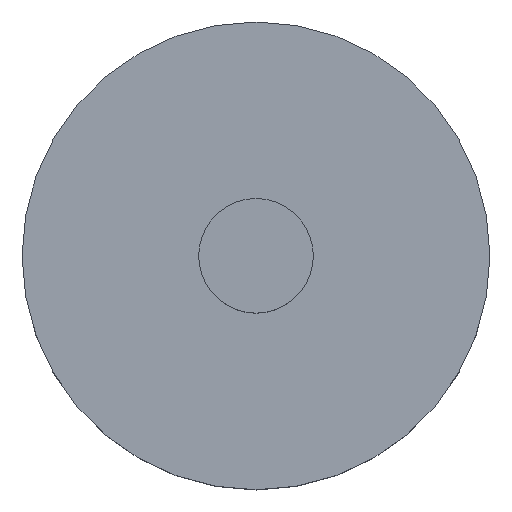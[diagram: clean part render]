
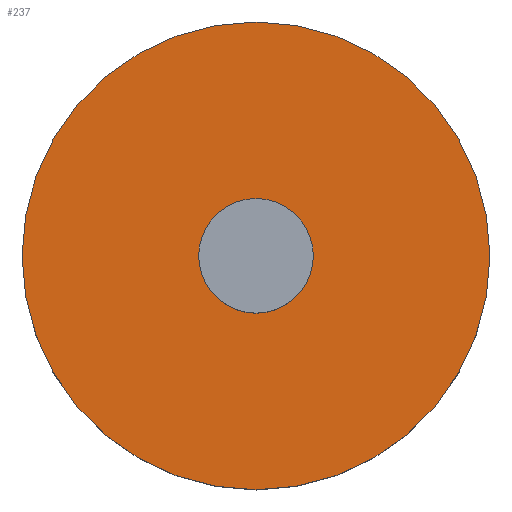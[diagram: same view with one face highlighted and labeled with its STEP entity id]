
A CAD part, top view. The second image highlights one B-rep face of the part: STEP entity #237.
In plain terms, the highlighted planar face has unit normal (0, 0, 1).
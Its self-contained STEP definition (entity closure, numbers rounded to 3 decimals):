
#2 = VERTEX_POINT ( 'NONE', #204 ) ;
#4 = EDGE_CURVE ( 'NONE', #81, #2, #239, .T. ) ;
#6 = DIRECTION ( 'NONE',  ( 1., 0., 0. ) ) ;
#11 = CARTESIAN_POINT ( 'NONE',  ( 20., 0., 0. ) ) ;
#21 = PLANE ( 'NONE',  #169 ) ;
#31 = EDGE_LOOP ( 'NONE', ( #151, #39 ) ) ;
#34 = CARTESIAN_POINT ( 'NONE',  ( 0., 0., 0. ) ) ;
#35 = VERTEX_POINT ( 'NONE', #69 ) ;
#39 = ORIENTED_EDGE ( 'NONE', *, *, #153, .F. ) ;
#45 = DIRECTION ( 'NONE',  ( -1., 0., 0. ) ) ;
#50 = EDGE_CURVE ( 'NONE', #2, #81, #215, .T. ) ;
#51 = VERTEX_POINT ( 'NONE', #11 ) ;
#69 = CARTESIAN_POINT ( 'NONE',  ( -20., 0., 0. ) ) ;
#76 = AXIS2_PLACEMENT_3D ( 'NONE', #131, #192, #206 ) ;
#77 = DIRECTION ( 'NONE',  ( 0., 0., -1. ) ) ;
#80 = CIRCLE ( 'NONE', #188, 20. ) ;
#81 = VERTEX_POINT ( 'NONE', #113 ) ;
#86 = CIRCLE ( 'NONE', #125, 20. ) ;
#91 = ORIENTED_EDGE ( 'NONE', *, *, #50, .F. ) ;
#98 = AXIS2_PLACEMENT_3D ( 'NONE', #106, #124, #6 ) ;
#106 = CARTESIAN_POINT ( 'NONE',  ( 0., 0., 0. ) ) ;
#107 = FACE_BOUND ( 'NONE', #123, .T. ) ;
#113 = CARTESIAN_POINT ( 'NONE',  ( 4.9, 0., 0. ) ) ;
#116 = FACE_OUTER_BOUND ( 'NONE', #31, .T. ) ;
#119 = DIRECTION ( 'NONE',  ( 0., 0., -1. ) ) ;
#120 = EDGE_CURVE ( 'NONE', #51, #35, #80, .T. ) ;
#123 = EDGE_LOOP ( 'NONE', ( #91, #245 ) ) ;
#124 = DIRECTION ( 'NONE',  ( 0., 0., 1. ) ) ;
#125 = AXIS2_PLACEMENT_3D ( 'NONE', #252, #229, #136 ) ;
#131 = CARTESIAN_POINT ( 'NONE',  ( 0., 0., 0. ) ) ;
#136 = DIRECTION ( 'NONE',  ( -1., 0., 0. ) ) ;
#151 = ORIENTED_EDGE ( 'NONE', *, *, #120, .F. ) ;
#153 = EDGE_CURVE ( 'NONE', #35, #51, #86, .T. ) ;
#158 = CARTESIAN_POINT ( 'NONE',  ( 0., 0., 0. ) ) ;
#169 = AXIS2_PLACEMENT_3D ( 'NONE', #158, #119, #45 ) ;
#188 = AXIS2_PLACEMENT_3D ( 'NONE', #34, #77, #211 ) ;
#192 = DIRECTION ( 'NONE',  ( 0., 0., 1. ) ) ;
#204 = CARTESIAN_POINT ( 'NONE',  ( -4.9, 0., 0. ) ) ;
#206 = DIRECTION ( 'NONE',  ( 1., 0., 0. ) ) ;
#211 = DIRECTION ( 'NONE',  ( -1., 0., 0. ) ) ;
#215 = CIRCLE ( 'NONE', #76, 4.9 ) ;
#229 = DIRECTION ( 'NONE',  ( 0., 0., -1. ) ) ;
#237 = ADVANCED_FACE ( 'NONE', ( #107, #116 ), #21, .F. ) ;
#239 = CIRCLE ( 'NONE', #98, 4.9 ) ;
#245 = ORIENTED_EDGE ( 'NONE', *, *, #4, .F. ) ;
#252 = CARTESIAN_POINT ( 'NONE',  ( 0., 0., 0. ) ) ;
